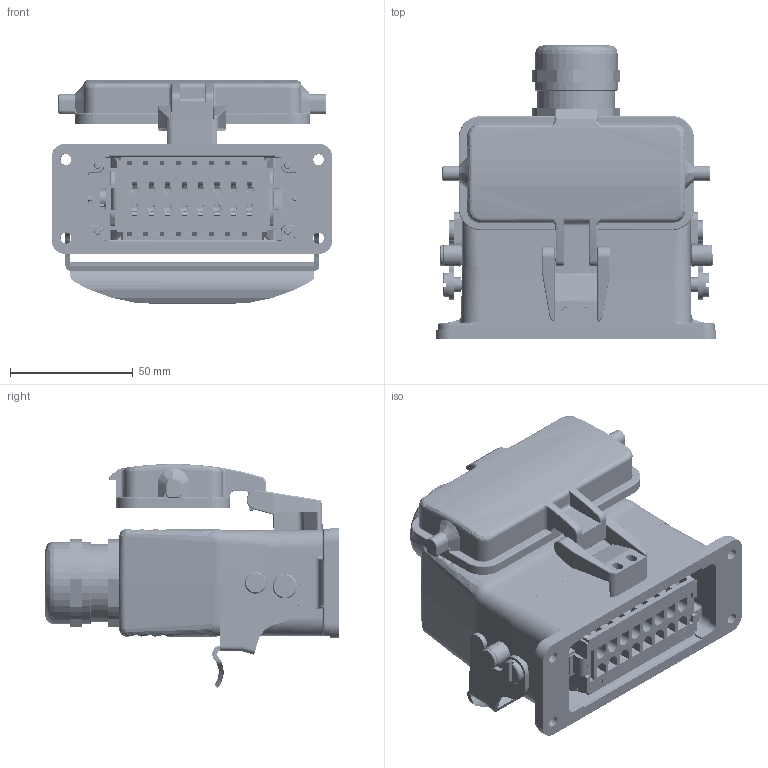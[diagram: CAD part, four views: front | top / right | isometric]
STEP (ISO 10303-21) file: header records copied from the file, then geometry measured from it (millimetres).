
FILE_DESCRIPTION (( 'STEP AP214' ), '1' );
FILE_NAME ('09016106125M HE、16针、开孔带盖底座、顶出M25套件、配金属接头.STEP', '2024-04-28T05:01:49', ( 'L' ), ( '' ), 'SwSTEP 2.0', 'SolidWorks 2019', '' );
FILE_SCHEMA (( 'AUTOMOTIVE_DESIGN' ));
Length unit declared in the file: millimetre
Products named in the file (6): H16B-AD-LB.step; H16B-TG-RO-M25.step; 09016106125M HE、16针、开孔带盖底座、顶出M25套件、配金属接头; FAS-25-M.step; HE-016-M.stp; HE-016-F.stp
Assembly tree (5 placements, depth 2):
  09016106125M HE、16针、开孔带盖底座、顶出M25套件、配金属接头
    HE-016-M.stp
    HE-016-F.stp
    FAS-25-M.step
    H16B-AD-LB.step
    H16B-TG-RO-M25.step
Bounding box: 114.6 x 119.7 x 91.38 mm (x, y, z)
Volume: 241052.2 mm3; surface area: 152737 mm2
Topology: 5 solids, 13 shells, 7637 faces, 20784 edges, 13185 vertices
Faces by surface type: plane 3434, bspline 1588, cylinder 1332, cone 993, torus 246, sphere 44
Entity records: 327132 total; most frequent: CARTESIAN_POINT 130495, ORIENTED_EDGE 41098, DIRECTION 30650, EDGE_CURVE 20549, VERTEX_POINT 13153, LINE 10248, VECTOR 10248, AXIS2_PLACEMENT_3D 10201
